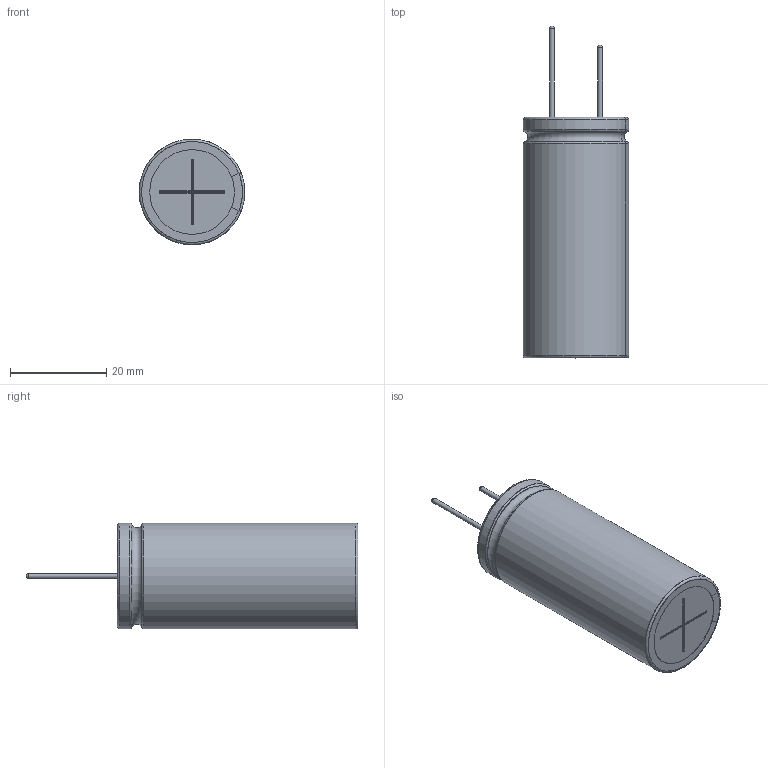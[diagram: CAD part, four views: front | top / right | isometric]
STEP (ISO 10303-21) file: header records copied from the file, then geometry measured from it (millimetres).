
FILE_DESCRIPTION(/* description */ (''),/* implementation_level */ '2;1');
FILE_NAME(/* name */ '22x50_Lead.stp',/* time_stamp */ '2017-09-06T16:14:46+09:00',/* author */ (''),/* organization */ (''),/* preprocessor_version */ 'ST-DEVELOPER v16',/* originating_system */ 'SIEMENS PLM Software NX 11.0',/* authorisation */ '');
FILE_SCHEMA (('AUTOMOTIVE_DESIGN { 1 0 10303 214 3 1 1 1 }'));
Length unit declared in the file: millimetre
Products named in the file (1): 22x50_Lead_0
Bounding box: 21.97 x 69 x 22 mm (x, y, z)
Volume: 18883.5 mm3; surface area: 11753.3 mm2
Topology: 3 solids, 3 shells, 100 faces, 252 edges, 160 vertices
Faces by surface type: cylinder 36, plane 28, torus 26, sphere 6, bspline 4
Full cylindrical faces by diameter (mm): 1 x2, 21.8 x2
Entity records: 3386 total; most frequent: CARTESIAN_POINT 605, DIRECTION 566, ORIENTED_EDGE 468, AXIS2_PLACEMENT_3D 235, EDGE_CURVE 234, VERTEX_POINT 154, CIRCLE 130, EDGE_LOOP 114
